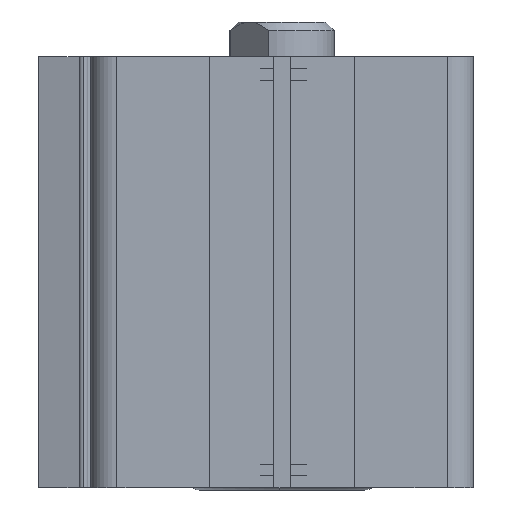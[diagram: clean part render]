
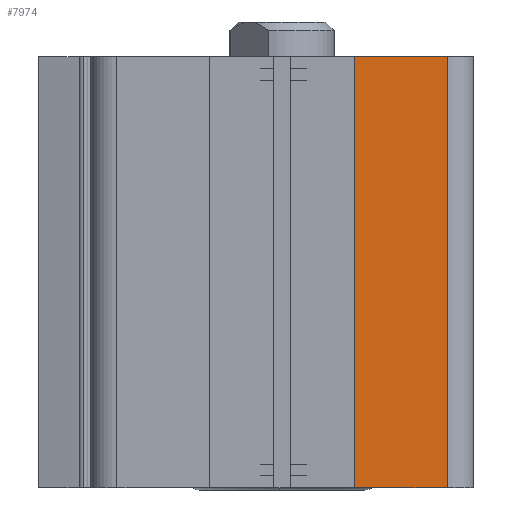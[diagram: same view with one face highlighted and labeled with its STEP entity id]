
A CAD part, left-side view. The second image highlights one B-rep face of the part: STEP entity #7974.
In plain terms, the highlighted planar face has unit normal (-1, 0, 0).
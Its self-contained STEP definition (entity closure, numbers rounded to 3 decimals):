
#647 = EDGE_CURVE ( 'NONE', #7826, #19844, #4474, .T. ) ;
#1046 = LINE ( 'NONE', #1675, #14770 ) ;
#1144 = FACE_OUTER_BOUND ( 'NONE', #15031, .T. ) ;
#1675 = CARTESIAN_POINT ( 'NONE',  ( -22., -8.35, 49.6 ) ) ;
#2209 = ORIENTED_EDGE ( 'NONE', *, *, #2987, .F. ) ;
#2823 = CARTESIAN_POINT ( 'NONE',  ( -22., -8.35, 0. ) ) ;
#2987 = EDGE_CURVE ( 'NONE', #16138, #19844, #11865, .T. ) ;
#3132 = CARTESIAN_POINT ( 'NONE',  ( -22., -19., 49.6 ) ) ;
#3503 = VECTOR ( 'NONE', #14246, 1000. ) ;
#3637 = EDGE_CURVE ( 'NONE', #17745, #7826, #1046, .T. ) ;
#4474 = LINE ( 'NONE', #15574, #17509 ) ;
#4947 = CARTESIAN_POINT ( 'NONE',  ( -22., -19., 0. ) ) ;
#5227 = VECTOR ( 'NONE', #10955, 1000. ) ;
#6718 = DIRECTION ( 'NONE',  ( 0., 0., -1. ) ) ;
#7225 = PLANE ( 'NONE',  #10968 ) ;
#7826 = VERTEX_POINT ( 'NONE', #2823 ) ;
#7974 = ADVANCED_FACE ( 'NONE', ( #1144 ), #7225, .F. ) ;
#8772 = ORIENTED_EDGE ( 'NONE', *, *, #16696, .F. ) ;
#8830 = DIRECTION ( 'NONE',  ( 1., 0., 0. ) ) ;
#9045 = CARTESIAN_POINT ( 'NONE',  ( -22., -8.35, 49.6 ) ) ;
#10955 = DIRECTION ( 'NONE',  ( 0., 0., -1. ) ) ;
#10968 = AXIS2_PLACEMENT_3D ( 'NONE', #13495, #8830, #6718 ) ;
#11865 = LINE ( 'NONE', #12199, #5227 ) ;
#12199 = CARTESIAN_POINT ( 'NONE',  ( -22., -19., 49.6 ) ) ;
#12690 = DIRECTION ( 'NONE',  ( 0., -1., 0. ) ) ;
#13495 = CARTESIAN_POINT ( 'NONE',  ( -22., -19., 49.6 ) ) ;
#14246 = DIRECTION ( 'NONE',  ( 0., -1., 0. ) ) ;
#14622 = ORIENTED_EDGE ( 'NONE', *, *, #647, .T. ) ;
#14770 = VECTOR ( 'NONE', #18599, 1000. ) ;
#15031 = EDGE_LOOP ( 'NONE', ( #14622, #2209, #8772, #16715 ) ) ;
#15574 = CARTESIAN_POINT ( 'NONE',  ( -22., -19., 0. ) ) ;
#16138 = VERTEX_POINT ( 'NONE', #3132 ) ;
#16696 = EDGE_CURVE ( 'NONE', #17745, #16138, #17242, .T. ) ;
#16715 = ORIENTED_EDGE ( 'NONE', *, *, #3637, .T. ) ;
#17242 = LINE ( 'NONE', #20288, #3503 ) ;
#17509 = VECTOR ( 'NONE', #12690, 1000. ) ;
#17745 = VERTEX_POINT ( 'NONE', #9045 ) ;
#18599 = DIRECTION ( 'NONE',  ( 0., 0., -1. ) ) ;
#19844 = VERTEX_POINT ( 'NONE', #4947 ) ;
#20288 = CARTESIAN_POINT ( 'NONE',  ( -22., -19., 49.6 ) ) ;
